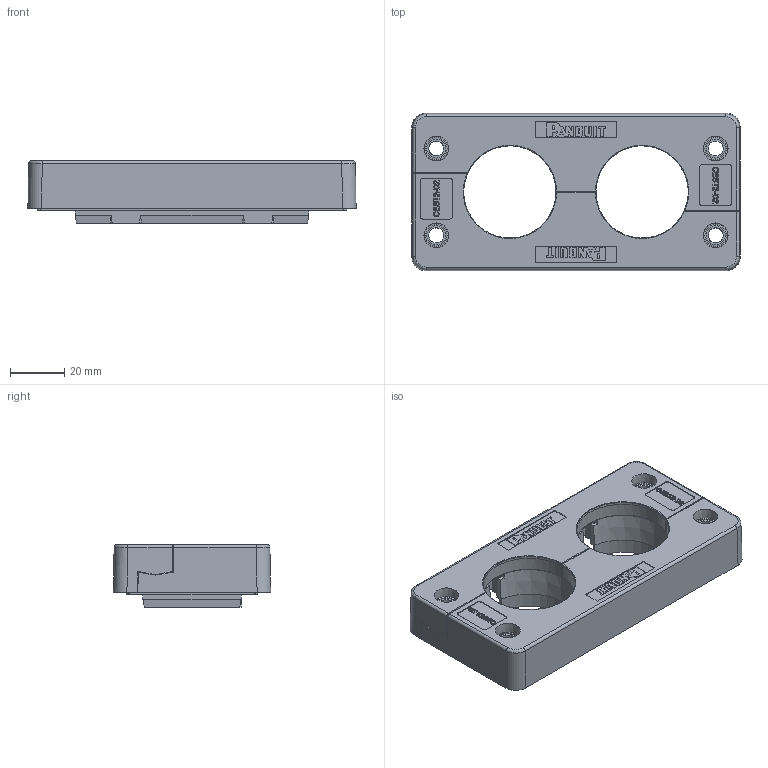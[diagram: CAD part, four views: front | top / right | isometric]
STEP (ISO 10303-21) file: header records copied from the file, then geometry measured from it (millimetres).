
FILE_DESCRIPTION(/* description */ (''),/* implementation_level */ '2;1');
FILE_NAME(/* name */ 'H:\SapWorkDir\Inventor\MP1\ConvertTempPath\87_11_121463_00_A_220620_KDL-D 16-2 ZSB.stp',/* time_stamp */ '2022-06-20T10:54:10+02:00',/* author */ ('BAUER'),/* organization */ (''),/* preprocessor_version */ 'ST-DEVELOPER v16.13',/* originating_system */ 'Autodesk Inventor 2018',/* authorisation */ '');
FILE_SCHEMA (('AUTOMOTIVE_DESIGN { 1 0 10303 214 3 1 1 }'));
Length unit declared in the file: millimetre
Products named in the file (4): 121463; 121409; 121410; KDB-16
Assembly tree (3 placements, depth 2):
  121463
    121409
    121410
    KDB-16
Bounding box: 121 x 58 x 23 mm (x, y, z)
Volume: 82412 mm3; surface area: 43812.5 mm2
Topology: 3 solids, 3 shells, 1057 faces, 2743 edges, 1755 vertices
Faces by surface type: plane 563, bspline 238, cylinder 186, cone 28, torus 26, sphere 16
Full cylindrical faces by diameter (mm): 5 x4, 5.5 x10, 6 x2
Entity records: 35551 total; most frequent: CARTESIAN_POINT 10663, ORIENTED_EDGE 5384, DIRECTION 4596, EDGE_CURVE 2692, LINE 1750, VECTOR 1750, VERTEX_POINT 1747, AXIS2_PLACEMENT_3D 1423
